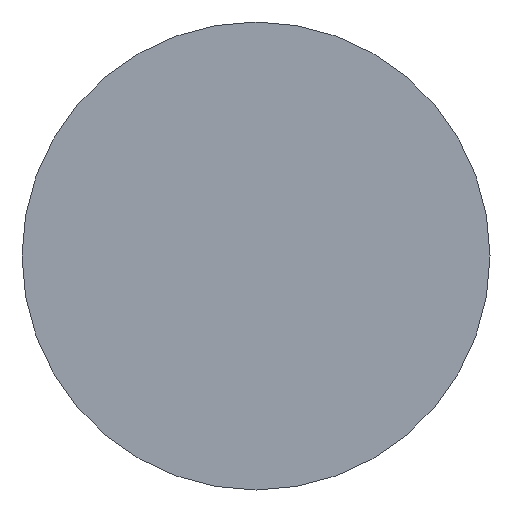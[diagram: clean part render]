
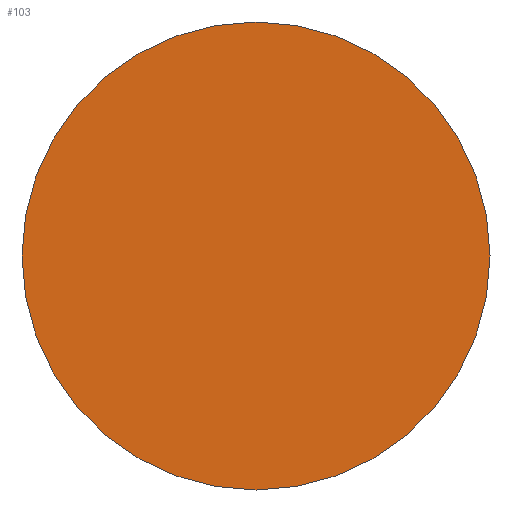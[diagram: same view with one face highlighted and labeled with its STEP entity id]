
A CAD part, left-side view. The second image highlights one B-rep face of the part: STEP entity #103.
In plain terms, the highlighted free-form (B-spline) face has degree [1, 1] with [2, 2] control points.
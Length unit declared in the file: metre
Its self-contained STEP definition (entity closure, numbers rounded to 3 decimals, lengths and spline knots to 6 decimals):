
#103 = ADVANCED_FACE( '', ( #162 ), #163, .F. );
#162 = FACE_OUTER_BOUND( '', #465, .T. );
#163 = B_SPLINE_SURFACE_WITH_KNOTS( '', 1, 1, ( ( #466, #467 ), ( #468, #469 ) ), .UNSPECIFIED., .F., .F., .F., ( 2, 2 ), ( 2, 2 ), ( 0., 1. ), ( 0., 1. ), .UNSPECIFIED. );
#465 = EDGE_LOOP( '', ( #633, #634 ) );
#466 = CARTESIAN_POINT( '', ( 0., -0.006072, 0.006072 ) );
#467 = CARTESIAN_POINT( '', ( 0., 0.006072, 0.006072 ) );
#468 = CARTESIAN_POINT( '', ( 0., -0.006072, -0.006072 ) );
#469 = CARTESIAN_POINT( '', ( 0., 0.006072, -0.006072 ) );
#633 = ORIENTED_EDGE( '', *, *, #651, .T. );
#634 = ORIENTED_EDGE( '', *, *, #701, .T. );
#651 = EDGE_CURVE( '', #712, #710, #713, .T. );
#701 = EDGE_CURVE( '', #710, #712, #789, .T. );
#710 = VERTEX_POINT( '', #798 );
#712 = VERTEX_POINT( '', #801 );
#713 = CIRCLE( '', #802, 0.006 );
#789 = CIRCLE( '', #991, 0.006 );
#798 = CARTESIAN_POINT( '', ( 0., 0., 0.006 ) );
#801 = CARTESIAN_POINT( '', ( 0., 0., -0.006 ) );
#802 = AXIS2_PLACEMENT_3D( '', #1003, #1004, #1005 );
#991 = AXIS2_PLACEMENT_3D( '', #1097, #1098, #1099 );
#1003 = CARTESIAN_POINT( '', ( 0., 0., 0. ) );
#1004 = DIRECTION( '', ( -1., 0., 0. ) );
#1005 = DIRECTION( '', ( 0., 0., 1. ) );
#1097 = CARTESIAN_POINT( '', ( 0., 0., 0. ) );
#1098 = DIRECTION( '', ( -1., 0., 0. ) );
#1099 = DIRECTION( '', ( 0., 0., 1. ) );
